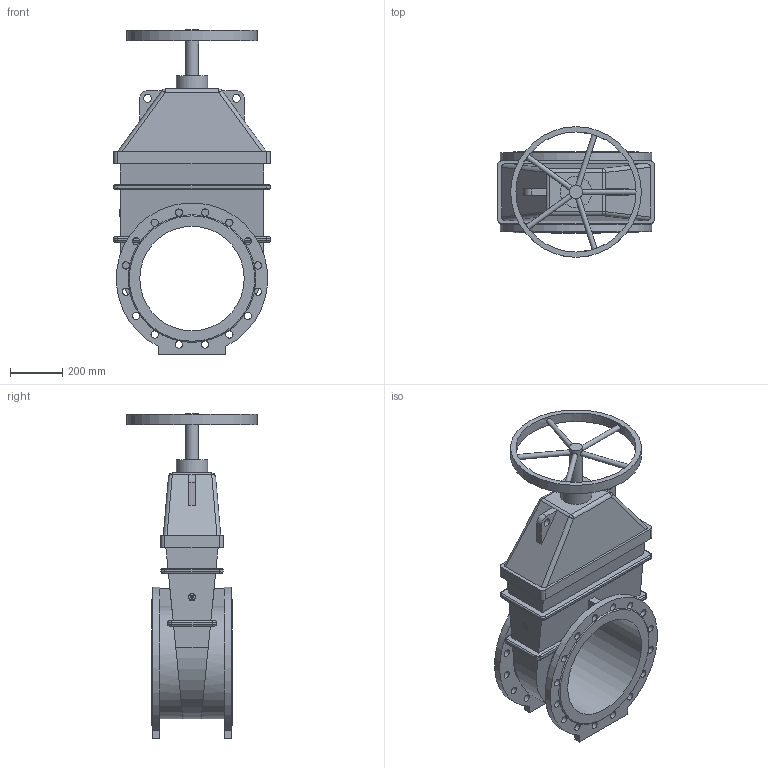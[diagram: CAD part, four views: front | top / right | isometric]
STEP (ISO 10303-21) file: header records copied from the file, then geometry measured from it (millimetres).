
FILE_DESCRIPTION(('STEP AP203'), '1');
FILE_NAME('Çàäâèæêà 47GV DN400 PN10_L310 ñ ìàõîâèêîì', '', ('UNSPECIFIED'), ('UNSPECIFIED'), 'ASCON STEP Converter 1.6', 'ASCON Math Kernel', '');
FILE_SCHEMA(('CONFIG_CONTROL_DESIGN'));
Length unit declared in the file: millimetre
Bounding box: 600 x 500 x 1243 mm (x, y, z)
Volume: 72110598.8 mm3; surface area: 2707523.8 mm2
Topology: 1 solids, 1 shells, 201 faces, 609 edges, 388 vertices
Faces by surface type: cylinder 98, plane 81, bspline 12, torus 8, cone 2
Full cylindrical faces by diameter (mm): 20 x5, 28 x32, 30 x2, 50 x1, 120 x1, 400 x1, 460 x1, 500 x1
Entity records: 12024 total; most frequent: CARTESIAN_POINT 5022, ORIENTED_EDGE 1116, DIRECTION 1084, EDGE_CURVE 558, AXIS2_PLACEMENT_3D 428, VERTEX_POINT 388, EDGE_LOOP 310, FACE_BOUND 253
